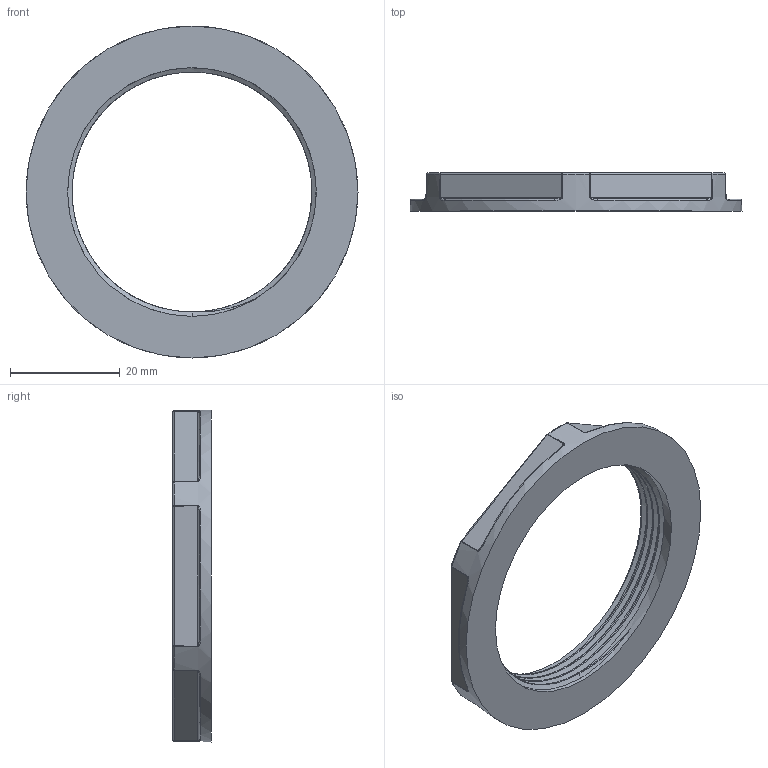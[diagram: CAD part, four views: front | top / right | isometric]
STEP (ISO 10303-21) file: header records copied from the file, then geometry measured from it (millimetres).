
FILE_DESCRIPTION (( 'STEP AP203' ), '1' );
FILE_NAME ('Ãàéêà ïðèæèìíàÿ (PG36-Ì45).STEP', '2020-08-06T09:30:32', ( '' ), ( '' ), 'SwSTEP 2.0', 'SolidWorks 2019', '' );
FILE_SCHEMA (( 'CONFIG_CONTROL_DESIGN' ));
Length unit declared in the file: millimetre
Products named in the file (1): Ãàéêà ïðèæèìíàÿ (PG36-Ì45)
Bounding box: 60.5 x 7 x 60.5 mm (x, y, z)
Volume: 7611.3 mm3; surface area: 5287.1 mm2
Topology: 1 solids, 1 shells, 86 faces, 201 edges, 105 vertices
Faces by surface type: bspline 30, cylinder 17, plane 14, torus 12, sphere 12, cone 1
Full cylindrical faces by diameter (mm): 45.35 x4
Entity records: 4273 total; most frequent: CARTESIAN_POINT 2621, ORIENTED_EDGE 348, DIRECTION 308, EDGE_CURVE 174, AXIS2_PLACEMENT_3D 141, VERTEX_POINT 96, CIRCLE 88, EDGE_LOOP 86
